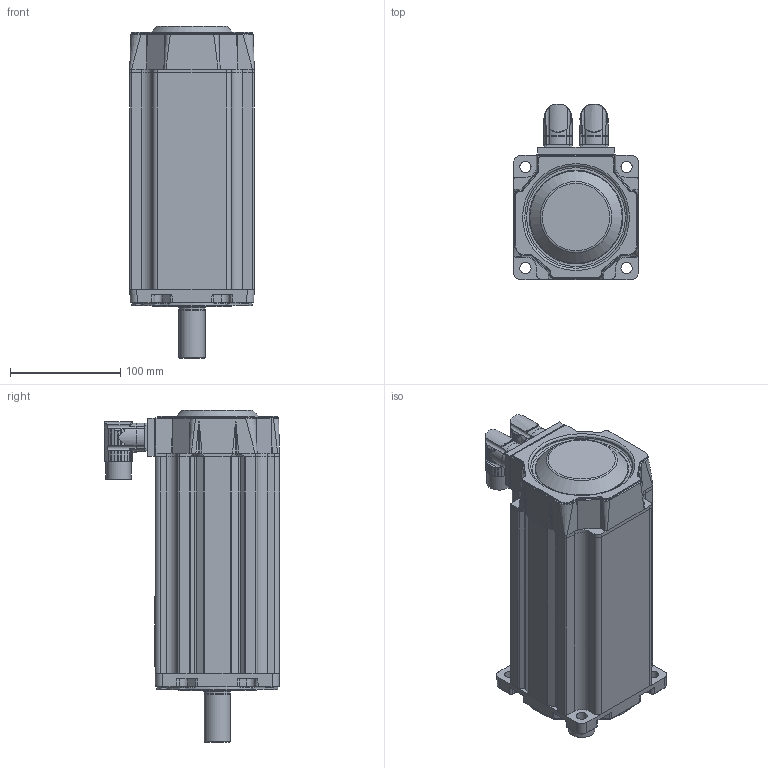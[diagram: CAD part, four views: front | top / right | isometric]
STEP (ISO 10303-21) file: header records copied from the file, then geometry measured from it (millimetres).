
FILE_DESCRIPTION((''),'2;1');
FILE_NAME('C:\CAD_work\Dummy_Modeling_Project_02-12-05\3D MODELS\MPP1154XXX_NPSB.stp','2005-12-20T17:18:43',('jevans'),(''),'Autodesk Inventor 10','Autodesk Inventor 10','');
FILE_SCHEMA(('AUTOMOTIVE_DESIGN { 1 0 10303 214 1 1 1 1 }'));
Length unit declared in the file: inch
Products named in the file (1): MPP115_MOTOR
Bounding box: 113.03 x 159.03 x 301.7 mm (x, y, z)
Volume: 2748673.7 mm3; surface area: 188225.5 mm2
Topology: 2 solids, 2 shells, 1017 faces, 2591 edges, 1624 vertices
Faces by surface type: bspline 355, cylinder 321, plane 240, cone 82, torus 17, sphere 2
Full cylindrical faces by diameter (mm): 1.143 x17, 2.032 x6, 2.794 x2, 19.05 x1, 19.685 x1, 22.86 x1, 23.647 x1, 24.003 x1, 24.994 x2, 31.75 x1, 47.549 x1, 54.61 x1, 61.468 x1, 62.001 x1, 62.027 x1, 62.268 x1, 65.634 x1, 69.85 x1, 71.12 x1, 93.066 x1, 109.995 x1
Entity records: 41612 total; most frequent: CARTESIAN_POINT 19300, ORIENTED_EDGE 4952, DIRECTION 4077, EDGE_CURVE 2476, VERTEX_POINT 1598, AXIS2_PLACEMENT_3D 1592, EDGE_LOOP 1168, FACE_OUTER_BOUND 1017
